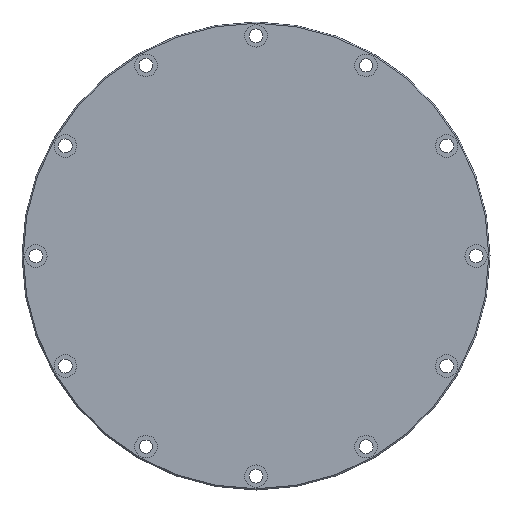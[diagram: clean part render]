
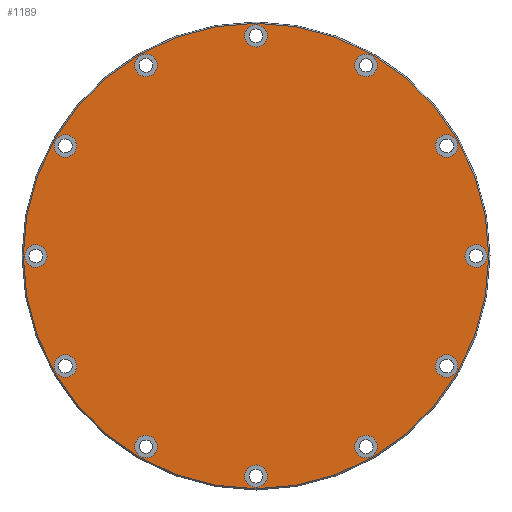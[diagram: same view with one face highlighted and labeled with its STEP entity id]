
A CAD part, left-side view. The second image highlights one B-rep face of the part: STEP entity #1189.
In plain terms, the highlighted planar face has unit normal (-1, 0, 0).
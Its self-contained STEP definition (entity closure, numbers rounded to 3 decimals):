
#849 = VERTEX_POINT('',#850);
#850 = CARTESIAN_POINT('',(0.,150.,41.));
#858 = EDGE_CURVE('',#849,#849,#859,.T.);
#859 = CIRCLE('',#860,92.5);
#860 = AXIS2_PLACEMENT_3D('',#861,#862,#863);
#861 = CARTESIAN_POINT('',(0.,150.,133.5));
#862 = DIRECTION('',(1.,0.,0.));
#863 = DIRECTION('',(0.,0.,-1.));
#874 = VERTEX_POINT('',#875);
#875 = CARTESIAN_POINT('',(0.,71.973,173.353
    ));
#883 = EDGE_CURVE('',#874,#874,#884,.T.);
#884 = CIRCLE('',#885,4.5);
#885 = AXIS2_PLACEMENT_3D('',#886,#887,#888);
#886 = CARTESIAN_POINT('',(0.,74.223,177.25
    ));
#887 = DIRECTION('',(1.,0.,0.));
#888 = DIRECTION('',(0.,-0.5,-0.866));
#899 = VERTEX_POINT('',#900);
#900 = CARTESIAN_POINT('',(0.,108.5,
    205.38));
#908 = EDGE_CURVE('',#899,#899,#909,.T.);
#909 = CIRCLE('',#910,4.5);
#910 = AXIS2_PLACEMENT_3D('',#911,#912,#913);
#911 = CARTESIAN_POINT('',(0.,106.25,
    209.277));
#912 = DIRECTION('',(1.,-0.,0.));
#913 = DIRECTION('',(0.,0.5,-0.866));
#924 = VERTEX_POINT('',#925);
#925 = CARTESIAN_POINT('',(0.,62.5,129.));
#933 = EDGE_CURVE('',#924,#924,#934,.T.);
#934 = CIRCLE('',#935,4.5);
#935 = AXIS2_PLACEMENT_3D('',#936,#937,#938);
#936 = CARTESIAN_POINT('',(0.,62.5,133.5));
#937 = DIRECTION('',(1.,-0.,0.));
#938 = DIRECTION('',(0.,0.,-1.));
#949 = VERTEX_POINT('',#950);
#950 = CARTESIAN_POINT('',(0.,76.473,
    85.853));
#958 = EDGE_CURVE('',#949,#949,#959,.T.);
#959 = CIRCLE('',#960,4.5);
#960 = AXIS2_PLACEMENT_3D('',#961,#962,#963);
#961 = CARTESIAN_POINT('',(0.,74.223,
    89.75));
#962 = DIRECTION('',(1.,-0.,0.));
#963 = DIRECTION('',(0.,0.5,-0.866));
#974 = VERTEX_POINT('',#975);
#975 = CARTESIAN_POINT('',(0.,104.,53.826
    ));
#983 = EDGE_CURVE('',#974,#974,#984,.T.);
#984 = CIRCLE('',#985,4.5);
#985 = AXIS2_PLACEMENT_3D('',#986,#987,#988);
#986 = CARTESIAN_POINT('',(0.,106.25,57.723
    ));
#987 = DIRECTION('',(1.,0.,0.));
#988 = DIRECTION('',(0.,-0.5,-0.866));
#999 = VERTEX_POINT('',#1000);
#1000 = CARTESIAN_POINT('',(0.,150.,216.5));
#1008 = EDGE_CURVE('',#999,#999,#1009,.T.);
#1009 = CIRCLE('',#1010,4.5);
#1010 = AXIS2_PLACEMENT_3D('',#1011,#1012,#1013);
#1011 = CARTESIAN_POINT('',(0.,150.,221.));
#1012 = DIRECTION('',(1.,-0.,0.));
#1013 = DIRECTION('',(0.,0.,-1.));
#1024 = VERTEX_POINT('',#1025);
#1025 = CARTESIAN_POINT('',(0.,191.5,205.38
    ));
#1033 = EDGE_CURVE('',#1024,#1024,#1034,.T.);
#1034 = CIRCLE('',#1035,4.5);
#1035 = AXIS2_PLACEMENT_3D('',#1036,#1037,#1038);
#1036 = CARTESIAN_POINT('',(0.,193.75,
    209.277));
#1037 = DIRECTION('',(1.,0.,0.));
#1038 = DIRECTION('',(0.,-0.5,-0.866));
#1049 = VERTEX_POINT('',#1050);
#1050 = CARTESIAN_POINT('',(0.,228.027,
    173.353));
#1058 = EDGE_CURVE('',#1049,#1049,#1059,.T.);
#1059 = CIRCLE('',#1060,4.5);
#1060 = AXIS2_PLACEMENT_3D('',#1061,#1062,#1063);
#1061 = CARTESIAN_POINT('',(0.,225.777,
    177.25));
#1062 = DIRECTION('',(1.,-0.,0.));
#1063 = DIRECTION('',(0.,0.5,-0.866));
#1074 = VERTEX_POINT('',#1075);
#1075 = CARTESIAN_POINT('',(0.,150.,41.5));
#1083 = EDGE_CURVE('',#1074,#1074,#1084,.T.);
#1084 = CIRCLE('',#1085,4.5);
#1085 = AXIS2_PLACEMENT_3D('',#1086,#1087,#1088);
#1086 = CARTESIAN_POINT('',(0.,150.,46.));
#1087 = DIRECTION('',(1.,-0.,0.));
#1088 = DIRECTION('',(0.,0.,-1.));
#1099 = VERTEX_POINT('',#1100);
#1100 = CARTESIAN_POINT('',(0.,196.,
    53.826));
#1108 = EDGE_CURVE('',#1099,#1099,#1109,.T.);
#1109 = CIRCLE('',#1110,4.5);
#1110 = AXIS2_PLACEMENT_3D('',#1111,#1112,#1113);
#1111 = CARTESIAN_POINT('',(0.,193.75,
    57.723));
#1112 = DIRECTION('',(1.,-0.,0.));
#1113 = DIRECTION('',(0.,0.5,-0.866));
#1124 = VERTEX_POINT('',#1125);
#1125 = CARTESIAN_POINT('',(0.,237.5,129.));
#1133 = EDGE_CURVE('',#1124,#1124,#1134,.T.);
#1134 = CIRCLE('',#1135,4.5);
#1135 = AXIS2_PLACEMENT_3D('',#1136,#1137,#1138);
#1136 = CARTESIAN_POINT('',(0.,237.5,133.5));
#1137 = DIRECTION('',(1.,-0.,0.));
#1138 = DIRECTION('',(0.,0.,-1.));
#1149 = VERTEX_POINT('',#1150);
#1150 = CARTESIAN_POINT('',(0.,223.527,
    85.853));
#1158 = EDGE_CURVE('',#1149,#1149,#1159,.T.);
#1159 = CIRCLE('',#1160,4.5);
#1160 = AXIS2_PLACEMENT_3D('',#1161,#1162,#1163);
#1161 = CARTESIAN_POINT('',(0.,225.777,
    89.75));
#1162 = DIRECTION('',(1.,0.,0.));
#1163 = DIRECTION('',(0.,-0.5,-0.866));
#1189 = ADVANCED_FACE('',(#1190,#1193,#1196,#1199,#1202,#1205,#1208,
    #1211,#1214,#1217,#1220,#1223,#1226),#1229,.F.);
#1190 = FACE_BOUND('',#1191,.F.);
#1191 = EDGE_LOOP('',(#1192));
#1192 = ORIENTED_EDGE('',*,*,#858,.T.);
#1193 = FACE_BOUND('',#1194,.F.);
#1194 = EDGE_LOOP('',(#1195));
#1195 = ORIENTED_EDGE('',*,*,#883,.F.);
#1196 = FACE_BOUND('',#1197,.F.);
#1197 = EDGE_LOOP('',(#1198));
#1198 = ORIENTED_EDGE('',*,*,#908,.F.);
#1199 = FACE_BOUND('',#1200,.F.);
#1200 = EDGE_LOOP('',(#1201));
#1201 = ORIENTED_EDGE('',*,*,#933,.F.);
#1202 = FACE_BOUND('',#1203,.F.);
#1203 = EDGE_LOOP('',(#1204));
#1204 = ORIENTED_EDGE('',*,*,#958,.F.);
#1205 = FACE_BOUND('',#1206,.F.);
#1206 = EDGE_LOOP('',(#1207));
#1207 = ORIENTED_EDGE('',*,*,#983,.F.);
#1208 = FACE_BOUND('',#1209,.F.);
#1209 = EDGE_LOOP('',(#1210));
#1210 = ORIENTED_EDGE('',*,*,#1008,.F.);
#1211 = FACE_BOUND('',#1212,.F.);
#1212 = EDGE_LOOP('',(#1213));
#1213 = ORIENTED_EDGE('',*,*,#1033,.F.);
#1214 = FACE_BOUND('',#1215,.F.);
#1215 = EDGE_LOOP('',(#1216));
#1216 = ORIENTED_EDGE('',*,*,#1058,.F.);
#1217 = FACE_BOUND('',#1218,.F.);
#1218 = EDGE_LOOP('',(#1219));
#1219 = ORIENTED_EDGE('',*,*,#1083,.F.);
#1220 = FACE_BOUND('',#1221,.F.);
#1221 = EDGE_LOOP('',(#1222));
#1222 = ORIENTED_EDGE('',*,*,#1108,.F.);
#1223 = FACE_BOUND('',#1224,.F.);
#1224 = EDGE_LOOP('',(#1225));
#1225 = ORIENTED_EDGE('',*,*,#1133,.F.);
#1226 = FACE_BOUND('',#1227,.F.);
#1227 = EDGE_LOOP('',(#1228));
#1228 = ORIENTED_EDGE('',*,*,#1158,.F.);
#1229 = PLANE('',#1230);
#1230 = AXIS2_PLACEMENT_3D('',#1231,#1232,#1233);
#1231 = CARTESIAN_POINT('',(0.,150.,133.5));
#1232 = DIRECTION('',(1.,0.,0.));
#1233 = DIRECTION('',(0.,0.,-1.));
